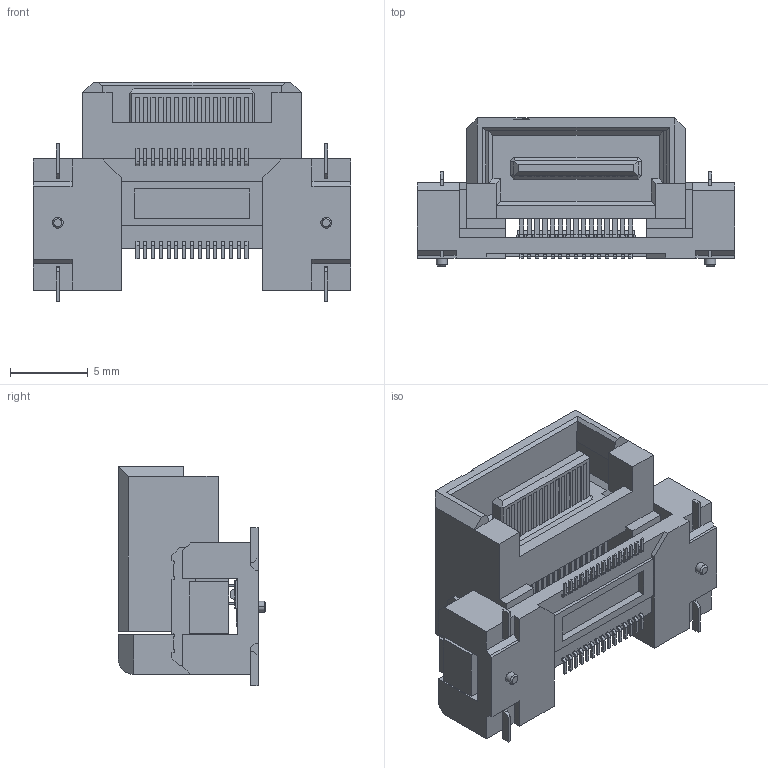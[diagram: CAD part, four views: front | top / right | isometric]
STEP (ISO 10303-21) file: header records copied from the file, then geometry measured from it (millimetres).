
FILE_DESCRIPTION(('Creo Elements/Direct Modeling STEP Export'),'2;1');
FILE_NAME('DT01-030L.stp','2018-11-12T16:51:28',(''),(''),'Creo Elements/Direct Modeling STEP processor for AP214 (Solid Model)','Creo Elements/Direct Modeling 19.0F 14-Feb-2017 (C) Parametric Technology GmbH','');
FILE_SCHEMA(('AUTOMOTIVE_DESIGN { 1 0 10303 214 1 1 1 1 }'));
Length unit declared in the file: millimetre
Products named in the file (2): DT01-030L_model
Assembly tree (1 placements, depth 2):
  DT01-030L_model
    DT01-030L_model
Bounding box: 20.42 x 9.5 x 14.09 mm (x, y, z)
Volume: 919 mm3; surface area: 1783.4 mm2
Topology: 1 solids, 1 shells, 1588 faces, 4474 edges, 2908 vertices
Faces by surface type: plane 1300, cylinder 284, cone 4
Entity records: 48829 total; most frequent: ORIENTED_EDGE 8948, CARTESIAN_POINT 8560, DIRECTION 7664, EDGE_CURVE 4474, VECTOR 3640, LINE 3640, VERTEX_POINT 2908, AXIS2_PLACEMENT_3D 2012
